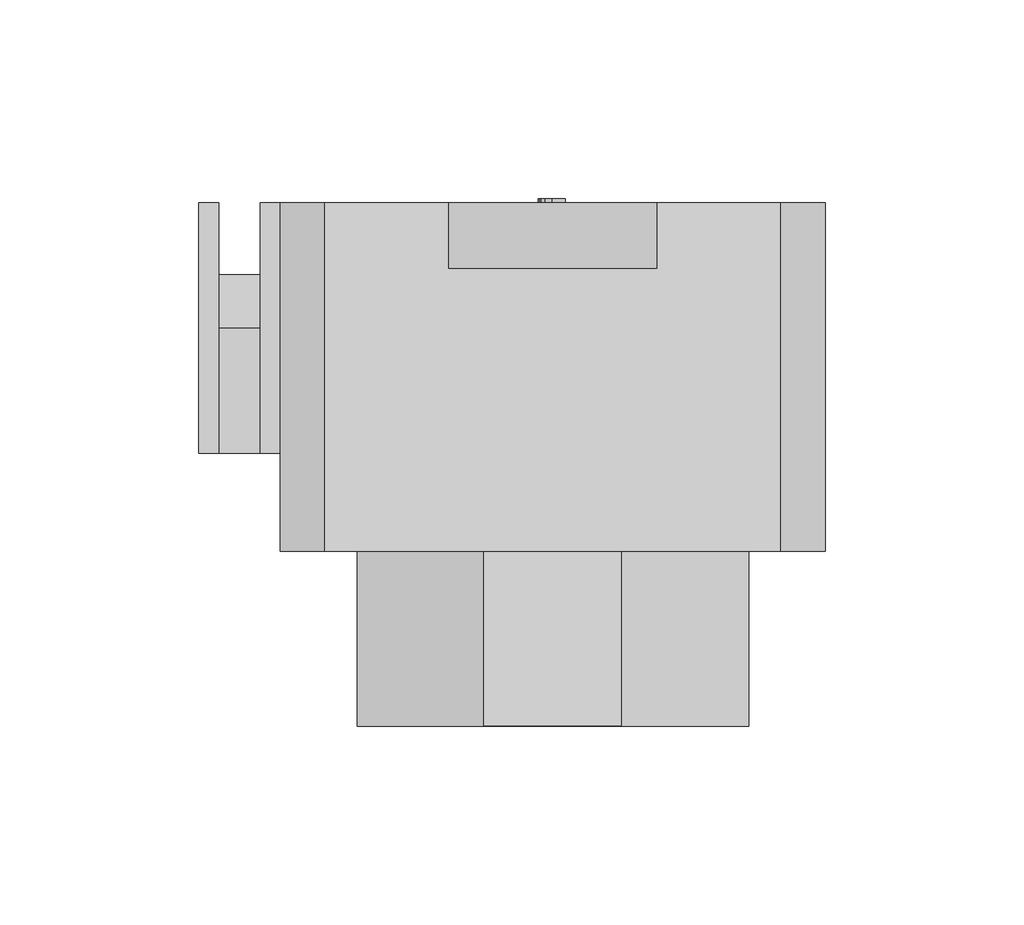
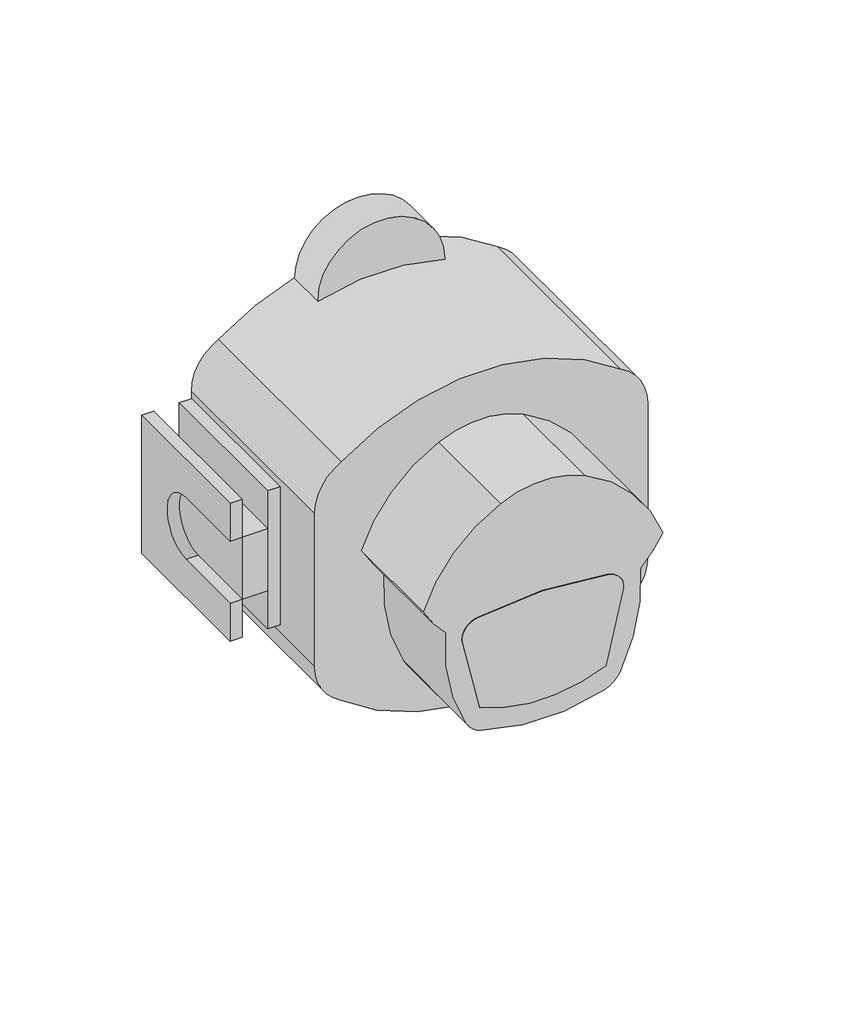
# Not in any storey: 1 proxy.
"""IFC4 building model written with IfcOpenShell, lengths in millimetres."""

from ifc_helpers import new_model, si_unit, origin, place, context, project, spatial, transform, mapped, element, save
from components import specialty_equipment_692c011a

model = new_model("IFC4")

# Units and contexts
model_context = context("Model", 3, world=origin())
ifc_project = project(units=[si_unit("LENGTHUNIT", "METRE", prefix="MILLI")], contexts=[model_context])

# Site, building
site = spatial("IfcSite", under=ifc_project)
building = spatial("IfcBuilding", under=site)

# Proxy
placement = place(None, origin())
specialty_equipment_shape = specialty_equipment_692c011a(model_context)
element("IfcBuildingElementProxy", 1, Name="11733550_SER_APWM053_DOS-WLM1 : 59510053_SER_11733550_APWM053_DOS-WLM1", ObjectType="11733550_SER_APWM053_DOS-WLM1 : 59510053_SER_11733550_APWM053_DOS-WLM1", at=placement, inside=building, context=model_context, shape_type="MappedRepresentation", body=[
    mapped(specialty_equipment_shape, transform((0.0, 0.0, 0.0), x_axis=(1.0, 0.0, 0.0), y_axis=(0.0, 1.0, 0.0), z_axis=(0.0, 0.0, 1.0))),
])

save(model, "model.ifc")
